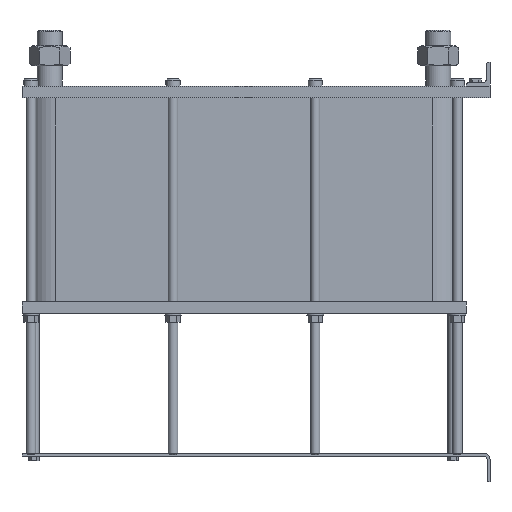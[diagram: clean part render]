
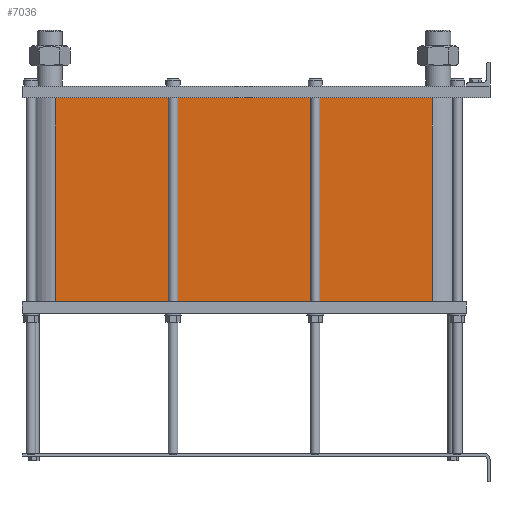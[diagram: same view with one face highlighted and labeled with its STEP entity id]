
A CAD part, left-side view. The second image highlights one B-rep face of the part: STEP entity #7036.
In plain terms, the highlighted planar face has unit normal (-1, 0, 0).
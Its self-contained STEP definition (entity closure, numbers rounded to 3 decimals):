
#999=LINE('',#15640,#1553);
#1031=LINE('',#15723,#1585);
#1032=LINE('',#15726,#1586);
#1033=LINE('',#15727,#1587);
#1553=VECTOR('',#9658,10.);
#1585=VECTOR('',#9736,10.);
#1586=VECTOR('',#9741,10.);
#1587=VECTOR('',#9742,10.);
#2117=FACE_OUTER_BOUND('',#2671,.T.);
#2671=EDGE_LOOP('',(#6246,#6247,#6248,#6249));
#3527=VERTEX_POINT('',#15634);
#3529=VERTEX_POINT('',#15638);
#3556=VERTEX_POINT('',#15720);
#3557=VERTEX_POINT('',#15722);
#4425=EDGE_CURVE('',#3529,#3527,#999,.T.);
#4466=EDGE_CURVE('',#3557,#3556,#1031,.T.);
#4468=EDGE_CURVE('',#3527,#3556,#1032,.T.);
#4469=EDGE_CURVE('',#3557,#3529,#1033,.T.);
#6246=ORIENTED_EDGE('',*,*,#4468,.F.);
#6247=ORIENTED_EDGE('',*,*,#4425,.F.);
#6248=ORIENTED_EDGE('',*,*,#4469,.F.);
#6249=ORIENTED_EDGE('',*,*,#4466,.T.);
#6608=PLANE('',#7812);
#7036=ADVANCED_FACE('',(#2117),#6608,.T.);
#7812=AXIS2_PLACEMENT_3D('',#15725,#9739,#9740);
#9658=DIRECTION('',(0.,0.,-1.));
#9736=DIRECTION('',(0.,0.,-1.));
#9739=DIRECTION('center_axis',(-1.,0.,0.));
#9740=DIRECTION('ref_axis',(0.,1.,0.));
#9741=DIRECTION('',(0.,1.,0.));
#9742=DIRECTION('',(0.,-1.,0.));
#15634=CARTESIAN_POINT('',(-72.,97.5,-344.1));
#15638=CARTESIAN_POINT('',(-72.,97.5,0.));
#15640=CARTESIAN_POINT('',(-72.,97.5,0.));
#15720=CARTESIAN_POINT('',(-72.,733.5,-344.1));
#15722=CARTESIAN_POINT('',(-72.,733.5,0.));
#15723=CARTESIAN_POINT('',(-72.,733.5,0.));
#15725=CARTESIAN_POINT('Origin',(-72.,97.5,0.));
#15726=CARTESIAN_POINT('',(-72.,256.5,-344.1));
#15727=CARTESIAN_POINT('',(-72.,733.5,0.));
